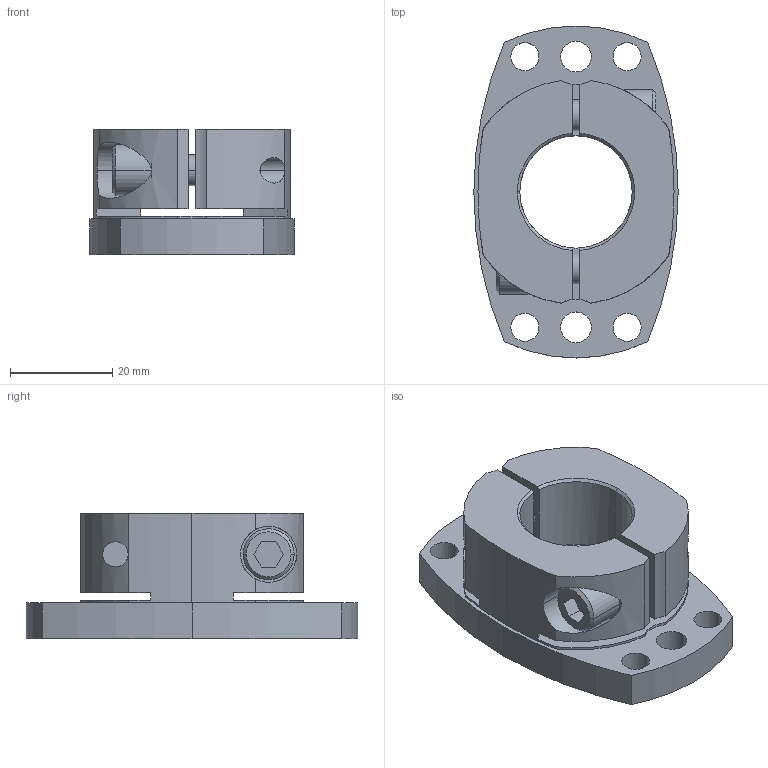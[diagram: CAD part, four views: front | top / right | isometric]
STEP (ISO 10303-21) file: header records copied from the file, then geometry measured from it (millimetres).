
FILE_DESCRIPTION((''),'2;1');
FILE_NAME('SHDB-65B-22.stp','2026-01-28T07:58:18',(''),(''),'AutoCAD STEP 2000i','AutoCAD 2000i',', , ');
FILE_SCHEMA(('CONFIG_CONTROL_DESIGN'));
Length unit declared in the file: millimetre
Products named in the file (2): SHDB-65B-22; 忣兜1
Assembly tree (1 placements, depth 2):
  SHDB-65B-22
    忣兜1
Bounding box: 40 x 65 x 24.5 mm (x, y, z)
Volume: 27853.5 mm3; surface area: 12440.2 mm2
Topology: 1 solids, 1 shells, 102 faces, 274 edges, 180 vertices
Faces by surface type: cylinder 58, plane 34, cone 10
Entity records: 3641 total; most frequent: CARTESIAN_POINT 842, DIRECTION 600, ORIENTED_EDGE 548, EDGE_CURVE 274, AXIS2_PLACEMENT_3D 238, VERTEX_POINT 180, CIRCLE 134, EDGE_LOOP 126
